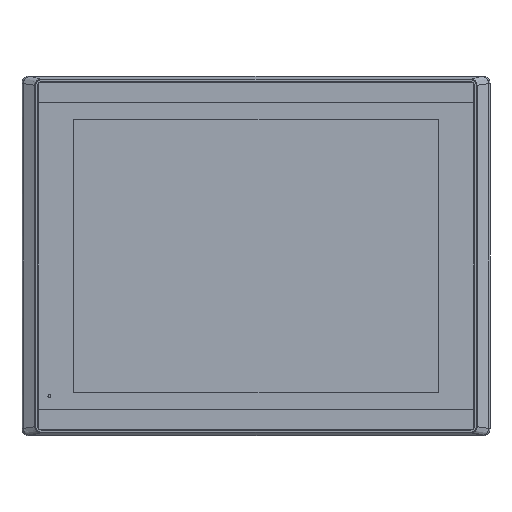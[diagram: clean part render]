
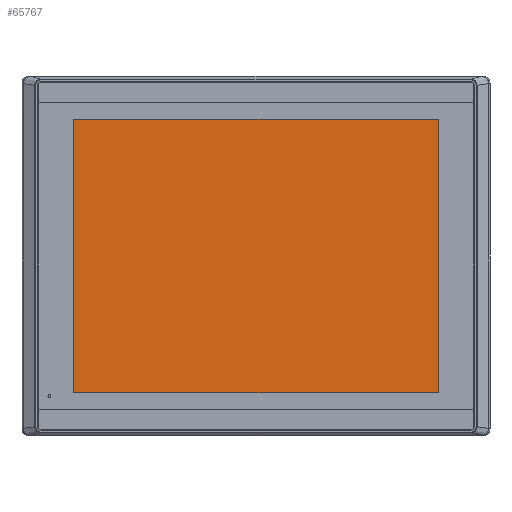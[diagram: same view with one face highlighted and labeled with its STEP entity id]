
A CAD part, top view. The second image highlights one B-rep face of the part: STEP entity #65767.
In plain terms, the highlighted planar face has unit normal (0, 0, 1).
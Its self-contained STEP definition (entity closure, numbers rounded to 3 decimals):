
#29339=DIRECTION('',(0.,1.,0.));
#29340=VECTOR('',#29339,186.5);
#29341=CARTESIAN_POINT('',(124.,-93.25,19.9));
#29342=LINE('',#29341,#29340);
#29343=DIRECTION('',(1.,0.,0.));
#29344=VECTOR('',#29343,248.);
#29345=CARTESIAN_POINT('',(-124.,-93.25,19.9));
#29346=LINE('',#29345,#29344);
#29347=DIRECTION('',(0.,-1.,0.));
#29348=VECTOR('',#29347,186.5);
#29349=CARTESIAN_POINT('',(-124.,93.25,19.9));
#29350=LINE('',#29349,#29348);
#29351=DIRECTION('',(-1.,0.,0.));
#29352=VECTOR('',#29351,248.);
#29353=CARTESIAN_POINT('',(124.,93.25,19.9));
#29354=LINE('',#29353,#29352);
#32211=CARTESIAN_POINT('',(-124.,93.25,19.9));
#32213=VERTEX_POINT('',#32211);
#32215=CARTESIAN_POINT('',(124.,93.25,19.9));
#32216=VERTEX_POINT('',#32215);
#32219=CARTESIAN_POINT('',(124.,-93.25,19.9));
#32220=VERTEX_POINT('',#32219);
#32224=CARTESIAN_POINT('',(-124.,-93.25,19.9));
#32226=VERTEX_POINT('',#32224);
#65756=CARTESIAN_POINT('',(0.,0.,19.9));
#65757=DIRECTION('',(0.,0.,1.));
#65758=DIRECTION('',(-1.,0.,0.));
#65759=AXIS2_PLACEMENT_3D('',#65756,#65757,#65758);
#65760=PLANE('',#65759);
#65761=ORIENTED_EDGE('',*,*,#65723,.F.);
#65762=ORIENTED_EDGE('',*,*,#65737,.F.);
#65763=ORIENTED_EDGE('',*,*,#65750,.F.);
#65764=ORIENTED_EDGE('',*,*,#65708,.F.);
#65765=EDGE_LOOP('',(#65761,#65762,#65763,#65764));
#65766=FACE_OUTER_BOUND('',#65765,.F.);
#65767=ADVANCED_FACE('',(#65766),#65760,.T.);
#65708=EDGE_CURVE('',#32216,#32213,#29354,.T.);
#65723=EDGE_CURVE('',#32220,#32216,#29342,.T.);
#65737=EDGE_CURVE('',#32226,#32220,#29346,.T.);
#65750=EDGE_CURVE('',#32213,#32226,#29350,.T.);
